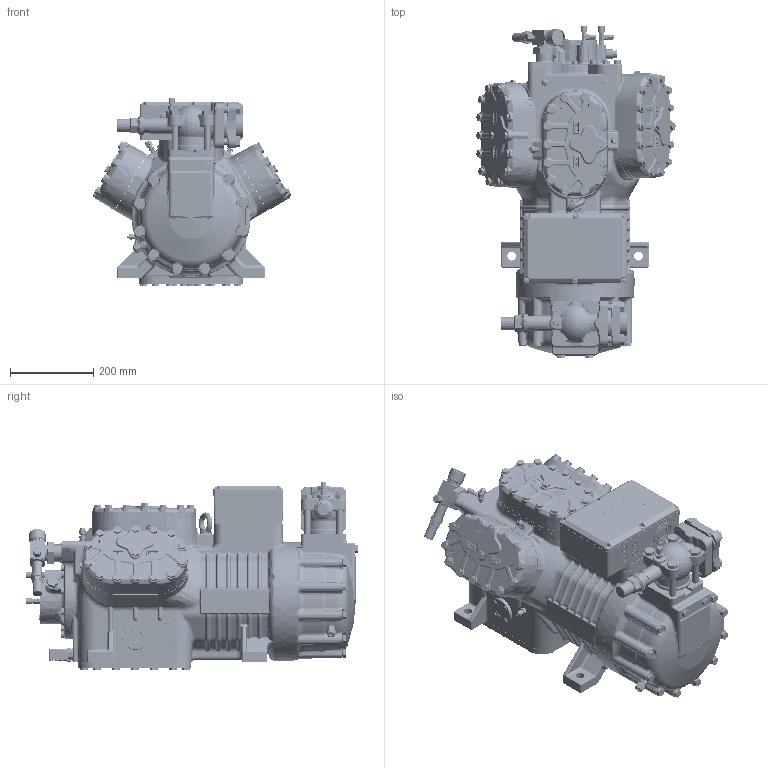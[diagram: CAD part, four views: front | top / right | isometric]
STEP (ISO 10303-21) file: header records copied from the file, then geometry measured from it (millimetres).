
FILE_DESCRIPTION(('TFLEX Exchange Step'),'2;1');
FILE_NAME('6H-35.3G_6G-40.3G.stp', '2024-12-02T17:32:20+03:00',('RUCO3143'),('Unknown organisation'),'TFLEX Exchange 2024.6','T-FLEX CAD','Unknown authorisation');
FILE_SCHEMA( ('AUTOMOTIVE_DESIGN { 1 0 10303 214 1 1 1 1 }') );
Length unit declared in the file: millimetre
Bounding box: 479.12 x 798.6 x 453.35 mm (x, y, z)
Volume: 60220118.1 mm3; surface area: 1971037.8 mm2
Topology: 10 solids, 13 shells, 10954 faces, 26978 edges, 16191 vertices
Faces by surface type: plane 3758, bspline 2887, cylinder 1865, cone 1581, torus 744, sphere 113, extrusion 6
Full cylindrical faces by diameter (mm): 4 x1, 5 x5, 7 x3, 8.5 x2, 9 x4, 9.5 x6, 10 x4, 10.3 x1, 11 x11, 12 x2, 13 x7, 14 x4, 14.5 x1, 15 x2, 15.8 x4, 16 x87, 17 x11, 18 x7, 21 x4, 22.5 x1, 23 x1, 24 x1, 27 x1, 30 x1, 31 x2, 34 x1, 35 x3, 35.2 x1, 36 x1, 38.5 x1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
Entity records: 552177 total; most frequent: CARTESIAN_POINT 330825, ORIENTED_EDGE 53286, DIRECTION 35246, EDGE_CURVE 26643, VERTEX_POINT 16191, AXIS2_PLACEMENT_3D 14044, B_SPLINE_CURVE_WITH_KNOTS 12534, EDGE_LOOP 11462
